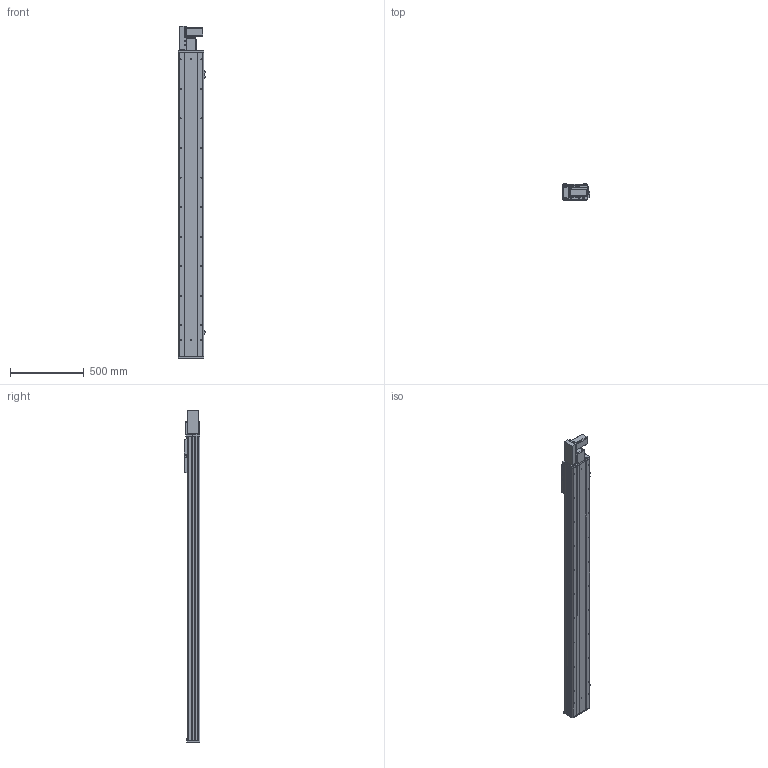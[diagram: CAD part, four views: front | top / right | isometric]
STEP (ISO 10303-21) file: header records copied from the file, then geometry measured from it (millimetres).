
FILE_DESCRIPTION (( 'STEP AP203' ), '1' );
FILE_NAME ('Y170CB-D105-S1750-BL-P400W.STEP', '2020-02-20T01:32:41', ( '微软用户' ), ( '微软中国' ), 'SwSTEP 2.0', 'SolidWorks 2017', '' );
FILE_SCHEMA (( 'CONFIG_CONTROL_DESIGN' ));
Length unit declared in the file: millimetre
Products named in the file (18): --70CB --喘謫眊楊擘啣-; 70B喘謫眊----; 70CB-耜裔啣-; Y1埴倛裔; 70C--詩湍揤踡え-; B-源倛裔啣; Y170CB-D105-S1750-BL-P400W; 70CB--耜裔; 17B-耜蚾蟀諉啣----; 70C-雄赽釱-奻-; 0B-萇儂楊擘啣; 0C--雄赽釱俋欶-170; san松下电机400不带刹车----; 70CB-詩湍--; Y70俋欶BR----; Y100-135俋离換覜ん--; 70CB-掛极-; Y170CB-陔俋离換覜結え---
Assembly tree (21 placements, depth 2):
  Y170CB-D105-S1750-BL-P400W
    B-源倛裔啣
    17B-耜蚾蟀諉啣----
    0B-萇儂楊擘啣
    san松下电机400不带刹车----
    Y70俋欶BR----
    70CB-掛极-
    --70CB --喘謫眊楊擘啣-
    70CB-耜裔啣-  x2
    70C--詩湍揤踡え-  x2
    70CB--耜裔
    70C-雄赽釱-奻-
    0C--雄赽釱俋欶-170
    70CB-詩湍--
    Y100-135俋离換覜ん--  x3
    Y170CB-陔俋离換覜結え---
    70B喘謫眊----
    Y1埴倛裔
Bounding box: 183.5 x 107 x 2247 mm (x, y, z)
Volume: 9490316.2 mm3; surface area: 3416505.7 mm2
Topology: 21 solids, 21 shells, 1039 faces, 2789 edges, 1850 vertices
Faces by surface type: cylinder 551, plane 464, cone 24
Entity records: 33196 total; most frequent: CARTESIAN_POINT 6096, DIRECTION 5398, ORIENTED_EDGE 5060, EDGE_CURVE 2530, AXIS2_PLACEMENT_3D 1984, VERTEX_POINT 1680, LINE 1430, VECTOR 1430
